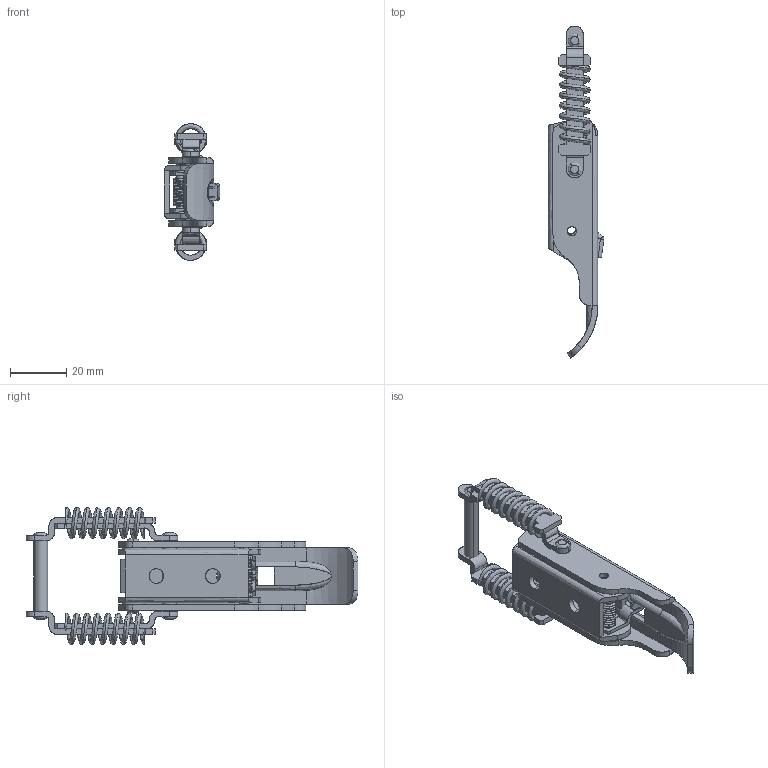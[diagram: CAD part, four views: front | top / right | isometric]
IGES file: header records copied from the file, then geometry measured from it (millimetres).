
Start section: SolidWorks IGES FILE using analytic representation for surfaces
Global section: file name: C:\Documents and Settings\lecoutey\Bureau\GP 75\GP 75.IGS; native system: SolidWorks 2004 by SolidWorks Corporation; preprocessor: Version 5.3; author: lecoutey; date: 050329.141412; units: millimetre
Bounding box: 19.76 x 117.66 x 48.4 mm (x, y, z)
Surface area: 20163.7 mm2 (no closed solid volume)
Topology: 0 solids, 0 shells, 361 faces, 5472 edges, 5472 vertices
Faces by surface type: bspline 211, revolution 150
